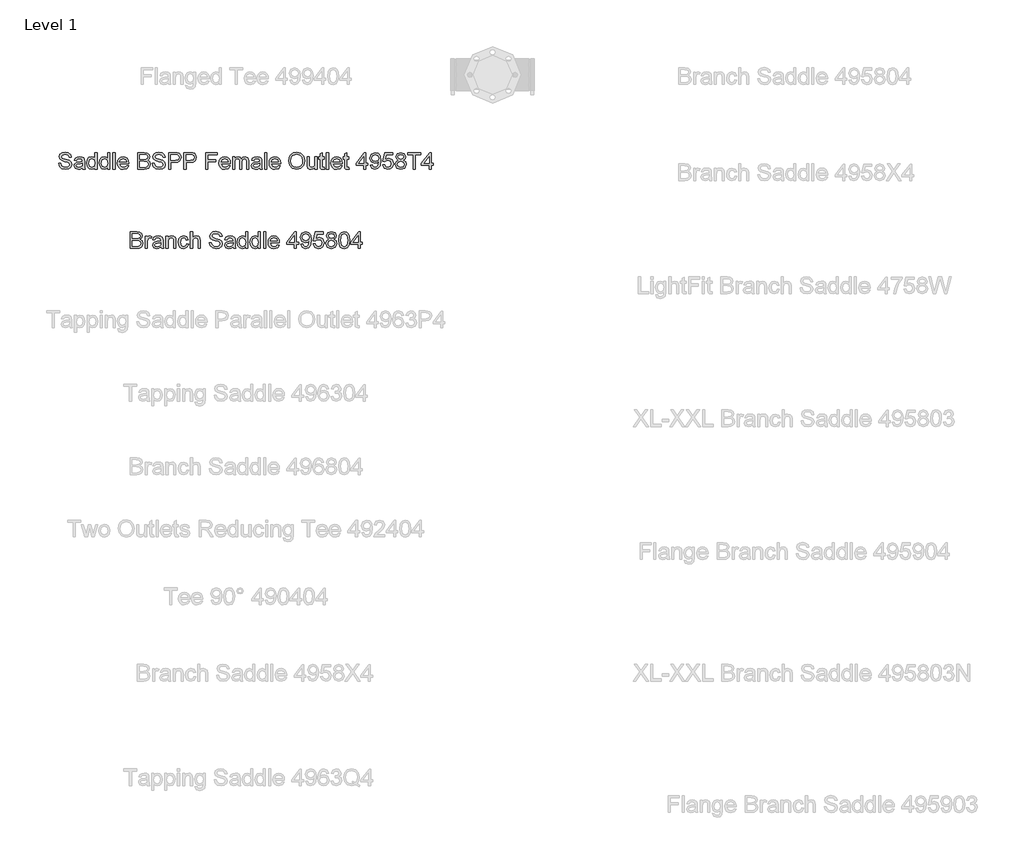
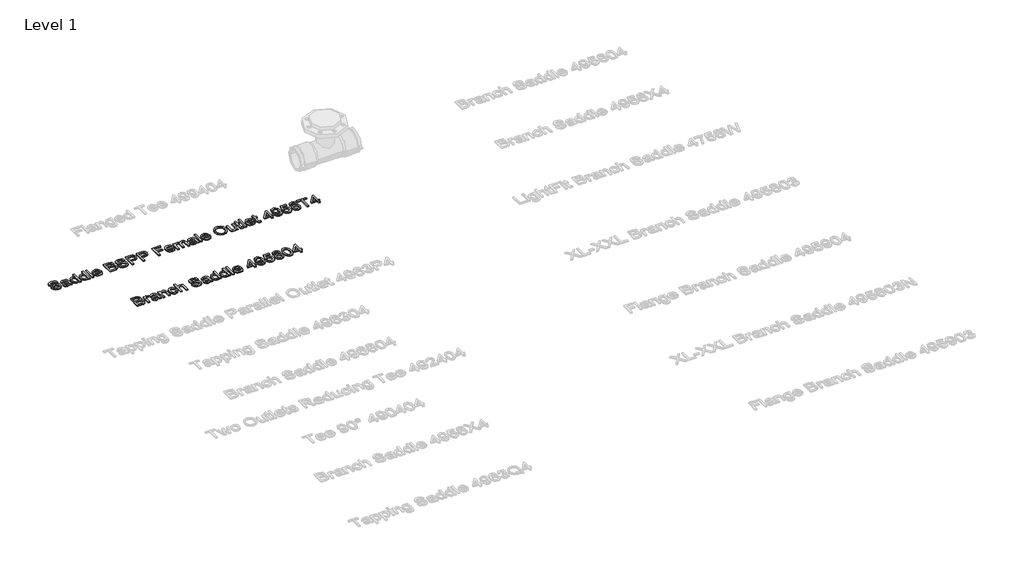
# One storey, part 8 of 38: 2 proxies.
"""IFC4 building model written with IfcOpenShell, lengths in millimetres."""

from ifc_helpers import new_model, si_unit, origin, origin_with_axes, place, context, project, spatial, polyline, outline, extrude, element, save

model = new_model("IFC4")

# Units and contexts
model_context = context("Model", 3, world=origin())
ifc_project = project(units=[si_unit("LENGTHUNIT", "METRE", prefix="MILLI")], contexts=[model_context])

# Site, building, storey
site = spatial("IfcSite", under=ifc_project)
building = spatial("IfcBuilding", under=site)
storey = spatial("IfcBuildingStorey", under=building, Name="Level 1", Elevation=0.0)

# Proxies
placement = place(None, origin())
element("IfcBuildingElementProxy", 1, Name="100 mm Arial", ObjectType="100 mm Arial", at=placement, inside=storey, context=model_context, shape_type="SweptSolid", body=[
    extrude(outline(polyline([(6397.5193072, 4657.8856658), (6404.9039226, 4657.8856658), (6407.2837303, 4650.4938389), (6413.0962303, 4645.820762), (6421.9519995, 4644.039512), (6429.6683456, 4645.3880697), (6434.6515187, 4649.0948005), (6436.288538, 4654.0491274), (6435.0625764, 4658.6573005), (6430.0433456, 4662.0106658), (6419.2909418, 4664.8303774), (6407.7164226, 4668.4722043), (6401.4351726, 4673.9673966), (6399.365461, 4681.3087428), (6401.9255572, 4689.6669158), (6409.4039226, 4695.5659543), (6420.351038, 4697.5779735), (6432.0337303, 4695.4722043), (6439.8221918, 4689.2847043), (6442.7500764, 4680.039512), (6435.365461, 4680.039512), (6431.1827687, 4687.6260505), (6420.6394995, 4690.1933582), (6410.0673841, 4687.6548966), (6406.7500764, 4681.5250889), (6409.101038, 4676.4048966), (6421.1587303, 4672.2798966), (6434.226038, 4668.5731658), (6441.3726726, 4662.5875889), (6443.6731533, 4654.2366274), (6441.0265187, 4645.4024928), (6433.4111341, 4638.9553774), (6422.240461, 4636.6548966), (6409.0505572, 4639.1356658), (6400.7068072, 4646.6068197), (6397.5193072, 4657.8856658)])), origin_with_axes(), (0.0, 0.0, 1.0), 5.0),
    extrude(outline(polyline([(6481.5193072, 4643.1164351), (6474.3582495, 4638.1116274), (6466.4471918, 4636.6548966), (6455.7236341, 4640.1597043), (6451.9808456, 4649.1164351), (6453.3943072, 4654.9577812), (6457.1082495, 4659.1981658), (6462.2789226, 4661.6212428), (6468.6683456, 4662.7318197), (6481.476038, 4665.2702812), (6481.5193072, 4666.914512), (6479.4856533, 4672.3664351), (6471.3221918, 4674.5010505), (6463.851038, 4673.0803774), (6460.288538, 4668.039512), (6452.9039226, 4668.9625889), (6456.0986341, 4676.1741274), (6462.5313264, 4680.4000889), (6472.2741149, 4681.8856658), (6481.2236341, 4680.5731658), (6486.2789226, 4677.2774928), (6488.5433456, 4672.2654735), (6488.9039226, 4665.8039351), (6488.9039226, 4656.6164351), (6489.2789226, 4643.7871082), (6490.7500764, 4637.5779735), (6483.365461, 4637.5779735), (6481.5193072, 4643.1164351)]), holes=[polyline([(6481.5193072, 4657.8856658), (6469.6058456, 4655.6212428), (6463.2524803, 4654.4241274), (6460.3750764, 4652.477012), (6459.365461, 4649.6356658), (6461.5649803, 4645.6404735), (6468.0193072, 4644.039512), (6475.490461, 4645.8063389), (6480.3077687, 4650.0827812), (6481.476038, 4655.7943197), (6481.5193072, 4657.8856658)])]), origin_with_axes(), (0.0, 0.0, 1.0), 5.0),
    extrude(outline(polyline([(6525.8269995, 4637.5779735), (6525.8269995, 4644.5443197), (6520.9411822, 4638.6272524), (6514.1875764, 4636.6548966), (6505.0433456, 4639.5106658), (6498.5818072, 4647.4794158), (6496.288538, 4659.227012), (6498.4015187, 4670.9818197), (6504.7332495, 4679.0731658), (6514.1587303, 4681.8856658), (6520.9664226, 4679.8736466), (6525.8269995, 4674.6452812), (6525.8269995, 4696.6548966), (6533.2116149, 4696.6548966), (6533.2116149, 4637.5779735), (6525.8269995, 4637.5779735)]), holes=[polyline([(6503.6731533, 4659.2558582), (6507.0048841, 4647.8255697), (6514.865461, 4644.039512), (6522.632288, 4647.6524928), (6525.8269995, 4658.6933582), (6522.5745956, 4670.6789351), (6514.5625764, 4674.5010505), (6506.788538, 4670.8303774), (6503.6731533, 4659.2558582)])]), origin_with_axes(), (0.0, 0.0, 1.0), 5.0),
    extrude(outline(polyline([(6571.0577687, 4637.5779735), (6571.0577687, 4644.5443197), (6566.1719514, 4638.6272524), (6559.4183456, 4636.6548966), (6550.2741149, 4639.5106658), (6543.8125764, 4647.4794158), (6541.5193072, 4659.227012), (6543.632288, 4670.9818197), (6549.9640187, 4679.0731658), (6559.3894995, 4681.8856658), (6566.1971918, 4679.8736466), (6571.0577687, 4674.6452812), (6571.0577687, 4696.6548966), (6578.4423841, 4696.6548966), (6578.4423841, 4637.5779735), (6571.0577687, 4637.5779735)]), holes=[polyline([(6548.9039226, 4659.2558582), (6552.2356533, 4647.8255697), (6560.0962303, 4644.039512), (6567.8630572, 4647.6524928), (6571.0577687, 4658.6933582), (6567.8053649, 4670.6789351), (6559.7933456, 4674.5010505), (6552.0193072, 4670.8303774), (6548.9039226, 4659.2558582)])]), origin_with_axes(), (0.0, 0.0, 1.0), 5.0),
    extrude(outline(polyline([(6589.5193072, 4637.5779735), (6589.5193072, 4696.6548966), (6596.9039226, 4696.6548966), (6596.9039226, 4637.5779735), (6589.5193072, 4637.5779735)])), origin_with_axes(), (0.0, 0.0, 1.0), 5.0),
    extrude(outline(polyline([(6638.3558456, 4650.5010505), (6645.5962303, 4649.5779735), (6638.8245956, 4640.0443197), (6626.2116149, 4636.6548966), (6617.5469514, 4638.117036), (6610.8798841, 4642.5034543), (6606.6286822, 4649.5292957), (6605.2116149, 4658.9097043), (6606.6431053, 4668.6056178), (6610.9375764, 4675.8568197), (6617.5144995, 4680.3784543), (6625.7933456, 4681.8856658), (6633.8143793, 4680.3820601), (6640.2236341, 4675.8712428), (6644.4261581, 4668.6344639), (6645.8269995, 4658.9529735), (6645.7837303, 4656.9625889), (6612.5962303, 4656.9625889), (6616.8438264, 4647.3712428), (6626.3558456, 4644.039512), (6633.5962303, 4645.5827812), (6638.3558456, 4650.5010505)]), holes=[polyline([(6612.5962303, 4664.3472043), (6638.4423841, 4664.3472043), (6635.4856533, 4671.039512), (6625.7644995, 4674.5010505), (6616.6707495, 4671.7390312), (6612.5962303, 4664.3472043)])]), origin_with_axes(), (0.0, 0.0, 1.0), 5.0),
    extrude(outline(polyline([(6677.2116149, 4637.5779735), (6677.2116149, 4696.6548966), (6699.7548841, 4696.6548966), (6710.7957495, 4694.9169158), (6717.3149803, 4689.5731658), (6719.6731533, 4682.0154735), (6717.6899803, 4675.1140312), (6711.6971918, 4669.8856658), (6718.9736341, 4664.3760505), (6721.5193072, 4655.1885505), (6719.7813264, 4647.2486466), (6715.476038, 4641.5948005), (6709.0505572, 4638.5948005), (6699.5818072, 4637.5779735), (6677.2116149, 4637.5779735)]), holes=[polyline([(6684.5962303, 4672.6548966), (6698.0818072, 4672.6548966), (6705.9568072, 4673.289512), (6710.694788, 4676.0226851), (6712.288538, 4680.8327812), (6710.802961, 4685.6500889), (6706.5481533, 4688.4986466), (6697.0577687, 4689.2702812), (6684.5962303, 4689.2702812), (6684.5962303, 4672.6548966)]), polyline([(6684.5962303, 4644.9625889), (6699.740461, 4644.9625889), (6705.2212303, 4645.2510505), (6709.8582495, 4646.8592235), (6712.9303649, 4650.1404735), (6714.1346918, 4655.1164351), (6712.7212303, 4660.8568197), (6708.1419033, 4664.2823005), (6699.0193072, 4665.2702812), (6684.5962303, 4665.2702812), (6684.5962303, 4644.9625889)])]), origin_with_axes(), (0.0, 0.0, 1.0), 5.0),
    extrude(outline(polyline([(6728.9039226, 4657.8856658), (6736.288538, 4657.8856658), (6738.6683456, 4650.4938389), (6744.4808456, 4645.820762), (6753.3366149, 4644.039512), (6761.052961, 4645.3880697), (6766.0361341, 4649.0948005), (6767.6731533, 4654.0491274), (6766.4471918, 4658.6573005), (6761.427961, 4662.0106658), (6750.6755572, 4664.8303774), (6739.101038, 4668.4722043), (6732.819788, 4673.9673966), (6730.7500764, 4681.3087428), (6733.3101726, 4689.6669158), (6740.788538, 4695.5659543), (6751.7356533, 4697.5779735), (6763.4183456, 4695.4722043), (6771.2068072, 4689.2847043), (6774.1346918, 4680.039512), (6766.7500764, 4680.039512), (6762.5673841, 4687.6260505), (6752.0241149, 4690.1933582), (6741.4519995, 4687.6548966), (6738.1346918, 4681.5250889), (6740.4856533, 4676.4048966), (6752.5433456, 4672.2798966), (6765.6106533, 4668.5731658), (6772.757288, 4662.5875889), (6775.0577687, 4654.2366274), (6772.4111341, 4645.4024928), (6764.7957495, 4638.9553774), (6753.6250764, 4636.6548966), (6740.4351726, 4639.1356658), (6732.0914226, 4646.6068197), (6728.9039226, 4657.8856658)])), origin_with_axes(), (0.0, 0.0, 1.0), 5.0),
    extrude(outline(polyline([(6786.1346918, 4637.5779735), (6786.1346918, 4696.6548966), (6808.0289226, 4696.6548966), (6816.8558456, 4696.0923966), (6824.0313264, 4693.3303774), (6828.6827687, 4687.6188389), (6830.4423841, 4679.5635505), (6825.6899803, 4666.7991274), (6819.0247158, 4662.883262), (6808.5337303, 4661.5779735), (6793.5193072, 4661.5779735), (6793.5193072, 4637.5779735), (6786.1346918, 4637.5779735)]), holes=[polyline([(6793.5193072, 4668.9625889), (6808.9664226, 4668.9625889), (6819.8414226, 4671.6741274), (6823.0577687, 4679.3039351), (6821.1611341, 4685.4193197), (6816.177961, 4688.7654735), (6808.7933456, 4689.2702812), (6793.5193072, 4689.2702812), (6793.5193072, 4668.9625889)])]), origin_with_axes(), (0.0, 0.0, 1.0), 5.0),
    extrude(outline(polyline([(6840.5962303, 4637.5779735), (6840.5962303, 4696.6548966), (6862.490461, 4696.6548966), (6871.3173841, 4696.0923966), (6878.4928649, 4693.3303774), (6883.1443072, 4687.6188389), (6884.9039226, 4679.5635505), (6880.1515187, 4666.7991274), (6873.4862543, 4662.883262), (6862.9952687, 4661.5779735), (6847.9808456, 4661.5779735), (6847.9808456, 4637.5779735), (6840.5962303, 4637.5779735)]), holes=[polyline([(6847.9808456, 4668.9625889), (6863.427961, 4668.9625889), (6874.302961, 4671.6741274), (6877.5193072, 4679.3039351), (6875.6226726, 4685.4193197), (6870.6394995, 4688.7654735), (6863.2548841, 4689.2702812), (6847.9808456, 4689.2702812), (6847.9808456, 4668.9625889)])]), origin_with_axes(), (0.0, 0.0, 1.0), 5.0),
    extrude(outline(polyline([(6918.1346918, 4637.5779735), (6918.1346918, 4696.6548966), (6957.8269995, 4696.6548966), (6957.8269995, 4689.2702812), (6925.5193072, 4689.2702812), (6925.5193072, 4671.7318197), (6953.2116149, 4671.7318197), (6953.2116149, 4664.3472043), (6925.5193072, 4664.3472043), (6925.5193072, 4637.5779735), (6918.1346918, 4637.5779735)])), origin_with_axes(), (0.0, 0.0, 1.0), 5.0),
    extrude(outline(polyline([(6997.4327687, 4650.5010505), (7004.6731533, 4649.5779735), (6997.9015187, 4640.0443197), (6985.288538, 4636.6548966), (6976.6238745, 4638.117036), (6969.9568072, 4642.5034543), (6965.7056053, 4649.5292957), (6964.288538, 4658.9097043), (6965.7200283, 4668.6056178), (6970.0144995, 4675.8568197), (6976.5914226, 4680.3784543), (6984.8702687, 4681.8856658), (6992.8913024, 4680.3820601), (6999.3005572, 4675.8712428), (7003.5030812, 4668.6344639), (7004.9039226, 4658.9529735), (7004.8606533, 4656.9625889), (6971.6731533, 4656.9625889), (6975.9207495, 4647.3712428), (6985.4327687, 4644.039512), (6992.6731533, 4645.5827812), (6997.4327687, 4650.5010505)]), holes=[polyline([(6971.6731533, 4664.3472043), (6997.5193072, 4664.3472043), (6994.5625764, 4671.039512), (6984.8414226, 4674.5010505), (6975.7476726, 4671.7390312), (6971.6731533, 4664.3472043)])]), origin_with_axes(), (0.0, 0.0, 1.0), 5.0),
    extrude(outline(polyline([(7012.288538, 4637.5779735), (7012.288538, 4680.9625889), (7019.6731533, 4680.9625889), (7019.6731533, 4673.8231658), (7024.7500764, 4679.6717235), (7031.976038, 4681.8856658), (7039.3750764, 4679.6284543), (7043.4423841, 4673.3039351), (7049.2044033, 4679.7402332), (7056.4808456, 4681.8856658), (7066.1370956, 4678.3159543), (7069.5193072, 4667.3183582), (7069.5193072, 4637.5779735), (7062.1346918, 4637.5779735), (7062.1346918, 4664.1452812), (7061.4495956, 4670.3111466), (7058.9688264, 4673.3472043), (7054.7500764, 4674.5010505), (7047.4880572, 4671.5443197), (7044.5962303, 4662.0683582), (7044.5962303, 4637.5779735), (7037.2116149, 4637.5779735), (7037.2116149, 4664.9673966), (7035.5024803, 4672.1212428), (7029.8991149, 4674.5010505), (7024.4327687, 4672.914512), (7020.7981533, 4668.2702812), (7019.6731533, 4659.4577812), (7019.6731533, 4637.5779735), (7012.288538, 4637.5779735)])), origin_with_axes(), (0.0, 0.0, 1.0), 5.0),
    extrude(outline(polyline([(7108.288538, 4643.1164351), (7101.1274803, 4638.1116274), (7093.2164226, 4636.6548966), (7082.4928649, 4640.1597043), (7078.7500764, 4649.1164351), (7080.163538, 4654.9577812), (7083.8774803, 4659.1981658), (7089.0481533, 4661.6212428), (7095.4375764, 4662.7318197), (7108.2452687, 4665.2702812), (7108.288538, 4666.914512), (7106.2548841, 4672.3664351), (7098.0914226, 4674.5010505), (7090.6202687, 4673.0803774), (7087.0577687, 4668.039512), (7079.6731533, 4668.9625889), (7082.8678649, 4676.1741274), (7089.3005572, 4680.4000889), (7099.0433456, 4681.8856658), (7107.9928649, 4680.5731658), (7113.0481533, 4677.2774928), (7115.3125764, 4672.2654735), (7115.6731533, 4665.8039351), (7115.6731533, 4656.6164351), (7116.0481533, 4643.7871082), (7117.5193072, 4637.5779735), (7110.1346918, 4637.5779735), (7108.288538, 4643.1164351)]), holes=[polyline([(7108.288538, 4657.8856658), (7096.3750764, 4655.6212428), (7090.021711, 4654.4241274), (7087.1443072, 4652.477012), (7086.1346918, 4649.6356658), (7088.334211, 4645.6404735), (7094.788538, 4644.039512), (7102.2596918, 4645.8063389), (7107.0769995, 4650.0827812), (7108.2452687, 4655.7943197), (7108.288538, 4657.8856658)])]), origin_with_axes(), (0.0, 0.0, 1.0), 5.0),
    extrude(outline(polyline([(7125.8269995, 4637.5779735), (7125.8269995, 4696.6548966), (7133.2116149, 4696.6548966), (7133.2116149, 4637.5779735), (7125.8269995, 4637.5779735)])), origin_with_axes(), (0.0, 0.0, 1.0), 5.0),
    extrude(outline(polyline([(7174.663538, 4650.5010505), (7181.9039226, 4649.5779735), (7175.132288, 4640.0443197), (7162.5193072, 4636.6548966), (7153.8546437, 4638.117036), (7147.1875764, 4642.5034543), (7142.9363745, 4649.5292957), (7141.5193072, 4658.9097043), (7142.9507976, 4668.6056178), (7147.2452687, 4675.8568197), (7153.8221918, 4680.3784543), (7162.101038, 4681.8856658), (7170.1220716, 4680.3820601), (7176.5313264, 4675.8712428), (7180.7338505, 4668.6344639), (7182.1346918, 4658.9529735), (7182.0914226, 4656.9625889), (7148.9039226, 4656.9625889), (7153.1515187, 4647.3712428), (7162.663538, 4644.039512), (7169.9039226, 4645.5827812), (7174.663538, 4650.5010505)]), holes=[polyline([(7148.9039226, 4664.3472043), (7174.7500764, 4664.3472043), (7171.7933456, 4671.039512), (7162.0721918, 4674.5010505), (7152.9784418, 4671.7390312), (7148.9039226, 4664.3472043)])]), origin_with_axes(), (0.0, 0.0, 1.0), 5.0),
    extrude(outline(polyline([(7210.7500764, 4666.3375889), (7212.7188264, 4679.4012908), (7218.6250764, 4689.2847043), (7227.6431053, 4695.5046562), (7238.9471918, 4697.5779735), (7253.6443072, 4693.6837428), (7263.6250764, 4682.8231658), (7267.0577687, 4667.0154735), (7263.444788, 4650.9914351), (7253.2044033, 4640.289512), (7238.9039226, 4636.6548966), (7224.0481533, 4640.6717235), (7214.1250764, 4651.633262), (7210.7500764, 4666.3375889)]), holes=[polyline([(7218.1346918, 4666.2654735), (7219.6112543, 4657.023887), (7224.0409418, 4649.9818197), (7230.6989947, 4645.5250889), (7238.8606533, 4644.039512), (7247.1413024, 4645.539512), (7253.8101726, 4650.039512), (7258.2074081, 4657.2979255), (7259.6731533, 4667.0731658), (7257.163538, 4679.2606658), (7249.8294033, 4687.3303774), (7238.990461, 4690.1933582), (7224.2933456, 4684.6765312), (7219.6743553, 4677.3153533), (7218.1346918, 4666.2654735)])]), origin_with_axes(), (0.0, 0.0, 1.0), 5.0),
    extrude(outline(polyline([(7303.9808456, 4637.5779735), (7303.9808456, 4645.0347043), (7298.1971918, 4638.7498485), (7290.6539226, 4636.6548966), (7283.709211, 4638.1260505), (7278.9207495, 4641.8183582), (7276.7212303, 4647.2558582), (7276.288538, 4654.1212428), (7276.288538, 4680.9625889), (7283.6731533, 4680.9625889), (7283.6731533, 4657.5972043), (7284.1202687, 4650.0683582), (7287.0409418, 4645.6476851), (7292.5433456, 4644.039512), (7298.709211, 4645.6837428), (7302.7837303, 4650.1621082), (7303.9808456, 4658.3904735), (7303.9808456, 4680.9625889), (7311.365461, 4680.9625889), (7311.365461, 4637.5779735), (7303.9808456, 4637.5779735)])), origin_with_axes(), (0.0, 0.0, 1.0), 5.0),
    extrude(outline(polyline([(7337.2116149, 4643.7366274), (7338.1346918, 4637.3616274), (7332.6106533, 4636.6548966), (7326.4231533, 4637.8808582), (7323.3366149, 4641.0972043), (7322.4423841, 4649.477012), (7322.4423841, 4673.5779735), (7316.9039226, 4673.5779735), (7316.9039226, 4680.9625889), (7322.4423841, 4680.9625889), (7322.4423841, 4691.5058582), (7329.8269995, 4695.8472043), (7329.8269995, 4680.9625889), (7337.2116149, 4680.9625889), (7337.2116149, 4673.5779735), (7329.8269995, 4673.5779735), (7329.8269995, 4649.6933582), (7330.2164226, 4645.8856658), (7331.4784418, 4644.5371082), (7333.9952687, 4644.039512), (7337.2116149, 4643.7366274)])), origin_with_axes(), (0.0, 0.0, 1.0), 5.0),
    extrude(outline(polyline([(7344.5962303, 4637.5779735), (7344.5962303, 4696.6548966), (7351.9808456, 4696.6548966), (7351.9808456, 4637.5779735), (7344.5962303, 4637.5779735)])), origin_with_axes(), (0.0, 0.0, 1.0), 5.0),
    extrude(outline(polyline([(7393.4327687, 4650.5010505), (7400.6731533, 4649.5779735), (7393.9015187, 4640.0443197), (7381.288538, 4636.6548966), (7372.6238745, 4638.117036), (7365.9568072, 4642.5034543), (7361.7056053, 4649.5292957), (7360.288538, 4658.9097043), (7361.7200283, 4668.6056178), (7366.0144995, 4675.8568197), (7372.5914226, 4680.3784543), (7380.8702687, 4681.8856658), (7388.8913024, 4680.3820601), (7395.3005572, 4675.8712428), (7399.5030812, 4668.6344639), (7400.9039226, 4658.9529735), (7400.8606533, 4656.9625889), (7367.6731533, 4656.9625889), (7371.9207495, 4647.3712428), (7381.4327687, 4644.039512), (7388.6731533, 4645.5827812), (7393.4327687, 4650.5010505)]), holes=[polyline([(7367.6731533, 4664.3472043), (7393.5193072, 4664.3472043), (7390.5625764, 4671.039512), (7380.8414226, 4674.5010505), (7371.7476726, 4671.7390312), (7367.6731533, 4664.3472043)])]), origin_with_axes(), (0.0, 0.0, 1.0), 5.0),
    extrude(outline(polyline([(7423.9808456, 4643.7366274), (7424.9039226, 4637.3616274), (7419.3798841, 4636.6548966), (7413.1923841, 4637.8808582), (7410.1058456, 4641.0972043), (7409.2116149, 4649.477012), (7409.2116149, 4673.5779735), (7403.6731533, 4673.5779735), (7403.6731533, 4680.9625889), (7409.2116149, 4680.9625889), (7409.2116149, 4691.5058582), (7416.5962303, 4695.8472043), (7416.5962303, 4680.9625889), (7423.9808456, 4680.9625889), (7423.9808456, 4673.5779735), (7416.5962303, 4673.5779735), (7416.5962303, 4649.6933582), (7416.9856533, 4645.8856658), (7418.2476726, 4644.5371082), (7420.7644995, 4644.039512), (7423.9808456, 4643.7366274)])), origin_with_axes(), (0.0, 0.0, 1.0), 5.0),
    extrude(outline(polyline([(7476.5962303, 4637.5779735), (7476.5962303, 4651.4241274), (7449.8269995, 4651.4241274), (7449.8269995, 4658.8087428), (7478.4423841, 4695.7318197), (7483.9808456, 4695.7318197), (7483.9808456, 4658.8087428), (7491.365461, 4658.8087428), (7491.365461, 4651.4241274), (7483.9808456, 4651.4241274), (7483.9808456, 4637.5779735), (7476.5962303, 4637.5779735)]), holes=[polyline([(7476.5962303, 4658.8087428), (7476.5962303, 4681.6260505), (7458.913538, 4658.8087428), (7476.5962303, 4658.8087428)])]), origin_with_axes(), (0.0, 0.0, 1.0), 5.0),
    extrude(outline(polyline([(7498.7500764, 4652.3472043), (7506.1346918, 4653.2702812), (7509.4519995, 4646.2246082), (7515.740461, 4644.039512), (7521.7188264, 4645.445762), (7525.771711, 4649.2029735), (7528.1875764, 4655.6212428), (7529.2548841, 4664.1885505), (7523.3053649, 4660.0347043), (7515.2068072, 4657.8856658), (7502.8678649, 4663.1356658), (7497.8269995, 4676.9673966), (7503.1130572, 4691.2462428), (7516.3606533, 4696.6548966), (7526.882288, 4693.5683582), (7534.1226726, 4684.7702812), (7536.5962303, 4668.2414351), (7534.1298841, 4650.3063389), (7526.7957495, 4640.1452812), (7515.3943072, 4636.6548966), (7504.0433456, 4640.7726851), (7498.7500764, 4652.3472043)]), holes=[polyline([(7529.2116149, 4677.1404735), (7526.0241149, 4685.9962428), (7517.5577687, 4689.2702812), (7508.6731533, 4685.7438389), (7505.2116149, 4676.6068197), (7508.4856533, 4668.4217235), (7517.3558456, 4665.2702812), (7525.8726726, 4668.4217235), (7529.2116149, 4677.1404735)])]), origin_with_axes(), (0.0, 0.0, 1.0), 5.0),
    extrude(outline(polyline([(7543.0577687, 4653.2702812), (7550.4423841, 4654.1933582), (7554.163538, 4646.5851851), (7561.8798841, 4644.039512), (7571.1394995, 4647.5803774), (7574.4423841, 4656.977012), (7571.3486341, 4665.7462428), (7561.9952687, 4668.9625889), (7555.5120956, 4667.6789351), (7551.365461, 4664.3472043), (7543.9808456, 4665.2702812), (7550.4423841, 4695.7318197), (7579.0577687, 4695.7318197), (7579.0577687, 4688.3472043), (7556.413538, 4688.3472043), (7553.2548841, 4672.0779735), (7564.0577687, 4676.3472043), (7576.6851726, 4671.0539351), (7581.8269995, 4657.4385505), (7577.1971918, 4643.7366274), (7570.5481533, 4638.4253293), (7561.851038, 4636.6548966), (7548.819788, 4641.2053774), (7543.0577687, 4653.2702812)])), origin_with_axes(), (0.0, 0.0, 1.0), 5.0),
    extrude(outline(polyline([(7599.0481533, 4670.1164351), (7592.319788, 4674.7029735), (7590.1346918, 4681.8423966), (7594.8943072, 4692.3856658), (7607.5721918, 4696.6548966), (7620.365461, 4692.2847043), (7625.2116149, 4681.6404735), (7623.0553649, 4674.6813389), (7616.5144995, 4670.1164351), (7624.3678649, 4664.3255697), (7627.0577687, 4654.7702812), (7621.7212303, 4641.8760505), (7607.6731533, 4636.6548966), (7593.6250764, 4641.8976851), (7588.288538, 4654.9722043), (7591.0866149, 4664.7510505), (7599.0481533, 4670.1164351)]), holes=[polyline([(7597.5193072, 4681.6260505), (7600.1370956, 4675.8279735), (7607.7596918, 4673.5779735), (7615.2308456, 4675.8135505), (7617.8269995, 4681.2943197), (7615.1443072, 4686.9698005), (7607.6731533, 4689.2702812), (7600.1803649, 4687.0202812), (7597.5193072, 4681.6260505)]), polyline([(7595.6731533, 4655.2318197), (7596.9063264, 4649.6717235), (7601.2693072, 4645.5106658), (7607.7308456, 4644.039512), (7616.5289226, 4647.133262), (7619.6731533, 4655.0010505), (7616.427961, 4663.0202812), (7607.4856533, 4666.1933582), (7598.7957495, 4663.0635505), (7595.6731533, 4655.2318197)])]), origin_with_axes(), (0.0, 0.0, 1.0), 5.0),
    extrude(outline(polyline([(7651.0577687, 4637.5779735), (7651.0577687, 4689.2702812), (7631.6731533, 4689.2702812), (7631.6731533, 4696.6548966), (7677.8269995, 4696.6548966), (7677.8269995, 4689.2702812), (7658.4423841, 4689.2702812), (7658.4423841, 4637.5779735), (7651.0577687, 4637.5779735)])), origin_with_axes(), (0.0, 0.0, 1.0), 5.0),
    extrude(outline(polyline([(7707.365461, 4637.5779735), (7707.365461, 4651.4241274), (7680.5962303, 4651.4241274), (7680.5962303, 4658.8087428), (7709.2116149, 4695.7318197), (7714.7500764, 4695.7318197), (7714.7500764, 4658.8087428), (7722.1346918, 4658.8087428), (7722.1346918, 4651.4241274), (7714.7500764, 4651.4241274), (7714.7500764, 4637.5779735), (7707.365461, 4637.5779735)]), holes=[polyline([(7707.365461, 4658.8087428), (7707.365461, 4681.6260505), (7689.6827687, 4658.8087428), (7707.365461, 4658.8087428)])]), origin_with_axes(), (0.0, 0.0, 1.0), 5.0),
])
element("IfcBuildingElementProxy", 2, Name="100 mm Arial", ObjectType="100 mm Arial", at=placement, inside=storey, context=model_context, shape_type="SweptSolid", body=[
    extrude(outline(polyline([(6650.4423841, 4357.5779735), (6650.4423841, 4416.6548966), (6672.9856533, 4416.6548966), (6684.0265187, 4414.9169158), (6690.5457495, 4409.5731658), (6692.9039226, 4402.0154735), (6690.9207495, 4395.1140312), (6684.927961, 4389.8856658), (6692.2044033, 4384.3760505), (6694.7500764, 4375.1885505), (6693.0120956, 4367.2486466), (6688.7068072, 4361.5948005), (6682.2813264, 4358.5948005), (6672.8125764, 4357.5779735), (6650.4423841, 4357.5779735)]), holes=[polyline([(6657.8269995, 4364.9625889), (6672.9712303, 4364.9625889), (6678.4519995, 4365.2510505), (6683.0890187, 4366.8592235), (6686.1611341, 4370.1404735), (6687.365461, 4375.1164351), (6685.9519995, 4380.8568197), (6681.3726726, 4384.2823005), (6672.2500764, 4385.2702812), (6657.8269995, 4385.2702812), (6657.8269995, 4364.9625889)]), polyline([(6657.8269995, 4392.6548966), (6671.3125764, 4392.6548966), (6679.1875764, 4393.289512), (6683.9255572, 4396.0226851), (6685.5193072, 4400.8327812), (6684.0337303, 4405.6500889), (6679.7789226, 4408.4986466), (6670.288538, 4409.2702812), (6657.8269995, 4409.2702812), (6657.8269995, 4392.6548966)])]), origin_with_axes(), (0.0, 0.0, 1.0), 5.0),
    extrude(outline(polyline([(6703.9808456, 4357.5779735), (6703.9808456, 4400.9625889), (6710.4423841, 4400.9625889), (6710.4423841, 4394.5443197), (6715.0289226, 4400.4577812), (6719.6443072, 4401.8856658), (6727.0577687, 4399.6068197), (6724.5914226, 4392.9866274), (6719.3991149, 4394.5010505), (6715.2236341, 4393.0443197), (6712.5625764, 4389.0058582), (6711.365461, 4380.3808582), (6711.365461, 4357.5779735), (6703.9808456, 4357.5779735)])), origin_with_axes(), (0.0, 0.0, 1.0), 5.0),
    extrude(outline(polyline([(6759.365461, 4363.1164351), (6752.2044033, 4358.1116274), (6744.2933456, 4356.6548966), (6733.569788, 4360.1597043), (6729.8269995, 4369.1164351), (6731.240461, 4374.9577812), (6734.9544033, 4379.1981658), (6740.1250764, 4381.6212428), (6746.5144995, 4382.7318197), (6759.3221918, 4385.2702812), (6759.365461, 4386.914512), (6757.3318072, 4392.3664351), (6749.1683456, 4394.5010505), (6741.6971918, 4393.0803774), (6738.1346918, 4388.039512), (6730.7500764, 4388.9625889), (6733.944788, 4396.1741274), (6740.3774803, 4400.4000889), (6750.1202687, 4401.8856658), (6759.069788, 4400.5731658), (6764.1250764, 4397.2774928), (6766.3894995, 4392.2654735), (6766.7500764, 4385.8039351), (6766.7500764, 4376.6164351), (6767.1250764, 4363.7871082), (6768.5962303, 4357.5779735), (6761.2116149, 4357.5779735), (6759.365461, 4363.1164351)]), holes=[polyline([(6759.365461, 4377.8856658), (6747.4519995, 4375.6212428), (6741.0986341, 4374.4241274), (6738.2212303, 4372.477012), (6737.2116149, 4369.6356658), (6739.4111341, 4365.6404735), (6745.865461, 4364.039512), (6753.3366149, 4365.8063389), (6758.1539226, 4370.0827812), (6759.3221918, 4375.7943197), (6759.365461, 4377.8856658)])]), origin_with_axes(), (0.0, 0.0, 1.0), 5.0),
    extrude(outline(polyline([(6776.9039226, 4357.5779735), (6776.9039226, 4400.9625889), (6784.288538, 4400.9625889), (6784.288538, 4394.9048966), (6789.9351726, 4400.1404735), (6797.6443072, 4401.8856658), (6804.6178649, 4400.4794158), (6809.3774803, 4396.7871082), (6811.5914226, 4391.3568197), (6811.9808456, 4384.2173966), (6811.9808456, 4357.5779735), (6804.5962303, 4357.5779735), (6804.5962303, 4383.2222043), (6803.7452687, 4389.7558582), (6800.7380572, 4393.2101851), (6795.6683456, 4394.5010505), (6787.6563264, 4391.602012), (6784.288538, 4380.5972043), (6784.288538, 4357.5779735), (6776.9039226, 4357.5779735)])), origin_with_axes(), (0.0, 0.0, 1.0), 5.0),
    extrude(outline(polyline([(6849.8269995, 4373.2702812), (6857.2116149, 4372.3472043), (6851.2837303, 4360.8159543), (6839.5721918, 4356.6548966), (6831.7170235, 4358.1062187), (6825.5745956, 4362.4601851), (6821.6100524, 4369.5256899), (6820.288538, 4379.1116274), (6822.5457495, 4391.3784543), (6829.4255572, 4399.2606658), (6839.4712303, 4401.8856658), (6850.6995956, 4398.2798966), (6856.288538, 4388.039512), (6848.9039226, 4387.1164351), (6845.4784418, 4392.6476851), (6839.5289226, 4394.5010505), (6830.9688264, 4390.852012), (6827.6731533, 4379.3135505), (6830.896711, 4367.6669158), (6839.3269995, 4364.039512), (6846.2861341, 4366.3039351), (6849.8269995, 4373.2702812)])), origin_with_axes(), (0.0, 0.0, 1.0), 5.0),
    extrude(outline(polyline([(6863.6731533, 4357.5779735), (6863.6731533, 4416.6548966), (6871.0577687, 4416.6548966), (6871.0577687, 4394.9337428), (6876.8161822, 4400.1476851), (6883.9087303, 4401.8856658), (6892.2019995, 4399.9890312), (6897.2356533, 4394.7462428), (6898.7500764, 4385.039512), (6898.7500764, 4357.5779735), (6891.365461, 4357.5779735), (6891.365461, 4384.2750889), (6889.0144995, 4392.0635505), (6882.351038, 4394.5010505), (6876.3005572, 4392.8568197), (6872.2620956, 4388.4000889), (6871.0577687, 4380.6260505), (6871.0577687, 4357.5779735), (6863.6731533, 4357.5779735)])), origin_with_axes(), (0.0, 0.0, 1.0), 5.0),
    extrude(outline(polyline([(6930.1346918, 4377.8856658), (6937.5193072, 4377.8856658), (6939.8991149, 4370.4938389), (6945.7116149, 4365.820762), (6954.5673841, 4364.039512), (6962.2837303, 4365.3880697), (6967.2669033, 4369.0948005), (6968.9039226, 4374.0491274), (6967.677961, 4378.6573005), (6962.6587303, 4382.0106658), (6951.9063264, 4384.8303774), (6940.3318072, 4388.4722043), (6934.0505572, 4393.9673966), (6931.9808456, 4401.3087428), (6934.5409418, 4409.6669158), (6942.0193072, 4415.5659543), (6952.9664226, 4417.5779735), (6964.6491149, 4415.4722043), (6972.4375764, 4409.2847043), (6975.365461, 4400.039512), (6967.9808456, 4400.039512), (6963.7981533, 4407.6260505), (6953.2548841, 4410.1933582), (6942.6827687, 4407.6548966), (6939.365461, 4401.5250889), (6941.7164226, 4396.4048966), (6953.7741149, 4392.2798966), (6966.8414226, 4388.5731658), (6973.9880572, 4382.5875889), (6976.288538, 4374.2366274), (6973.6419033, 4365.4024928), (6966.0265187, 4358.9553774), (6954.8558456, 4356.6548966), (6941.6659418, 4359.1356658), (6933.3221918, 4366.6068197), (6930.1346918, 4377.8856658)])), origin_with_axes(), (0.0, 0.0, 1.0), 5.0),
    extrude(outline(polyline([(7014.1346918, 4363.1164351), (7006.9736341, 4358.1116274), (6999.0625764, 4356.6548966), (6988.3390187, 4360.1597043), (6984.5962303, 4369.1164351), (6986.0096918, 4374.9577812), (6989.7236341, 4379.1981658), (6994.8943072, 4381.6212428), (7001.2837303, 4382.7318197), (7014.0914226, 4385.2702812), (7014.1346918, 4386.914512), (7012.101038, 4392.3664351), (7003.9375764, 4394.5010505), (6996.4664226, 4393.0803774), (6992.9039226, 4388.039512), (6985.5193072, 4388.9625889), (6988.7140187, 4396.1741274), (6995.146711, 4400.4000889), (7004.8894995, 4401.8856658), (7013.8390187, 4400.5731658), (7018.8943072, 4397.2774928), (7021.1587303, 4392.2654735), (7021.5193072, 4385.8039351), (7021.5193072, 4376.6164351), (7021.8943072, 4363.7871082), (7023.365461, 4357.5779735), (7015.9808456, 4357.5779735), (7014.1346918, 4363.1164351)]), holes=[polyline([(7014.1346918, 4377.8856658), (7002.2212303, 4375.6212428), (6995.8678649, 4374.4241274), (6992.990461, 4372.477012), (6991.9808456, 4369.6356658), (6994.1803649, 4365.6404735), (7000.6346918, 4364.039512), (7008.1058456, 4365.8063389), (7012.9231533, 4370.0827812), (7014.0914226, 4375.7943197), (7014.1346918, 4377.8856658)])]), origin_with_axes(), (0.0, 0.0, 1.0), 5.0),
    extrude(outline(polyline([(7058.4423841, 4357.5779735), (7058.4423841, 4364.5443197), (7053.5565668, 4358.6272524), (7046.802961, 4356.6548966), (7037.6587303, 4359.5106658), (7031.1971918, 4367.4794158), (7028.9039226, 4379.227012), (7031.0169033, 4390.9818197), (7037.3486341, 4399.0731658), (7046.7741149, 4401.8856658), (7053.5818072, 4399.8736466), (7058.4423841, 4394.6452812), (7058.4423841, 4416.6548966), (7065.8269995, 4416.6548966), (7065.8269995, 4357.5779735), (7058.4423841, 4357.5779735)]), holes=[polyline([(7036.288538, 4379.2558582), (7039.6202687, 4367.8255697), (7047.4808456, 4364.039512), (7055.2476726, 4367.6524928), (7058.4423841, 4378.6933582), (7055.1899803, 4390.6789351), (7047.177961, 4394.5010505), (7039.4039226, 4390.8303774), (7036.288538, 4379.2558582)])]), origin_with_axes(), (0.0, 0.0, 1.0), 5.0),
    extrude(outline(polyline([(7103.6731533, 4357.5779735), (7103.6731533, 4364.5443197), (7098.787336, 4358.6272524), (7092.0337303, 4356.6548966), (7082.8894995, 4359.5106658), (7076.427961, 4367.4794158), (7074.1346918, 4379.227012), (7076.2476726, 4390.9818197), (7082.5794033, 4399.0731658), (7092.0048841, 4401.8856658), (7098.8125764, 4399.8736466), (7103.6731533, 4394.6452812), (7103.6731533, 4416.6548966), (7111.0577687, 4416.6548966), (7111.0577687, 4357.5779735), (7103.6731533, 4357.5779735)]), holes=[polyline([(7081.5193072, 4379.2558582), (7084.851038, 4367.8255697), (7092.7116149, 4364.039512), (7100.4784418, 4367.6524928), (7103.6731533, 4378.6933582), (7100.4207495, 4390.6789351), (7092.4087303, 4394.5010505), (7084.6346918, 4390.8303774), (7081.5193072, 4379.2558582)])]), origin_with_axes(), (0.0, 0.0, 1.0), 5.0),
    extrude(outline(polyline([(7122.1346918, 4357.5779735), (7122.1346918, 4416.6548966), (7129.5193072, 4416.6548966), (7129.5193072, 4357.5779735), (7122.1346918, 4357.5779735)])), origin_with_axes(), (0.0, 0.0, 1.0), 5.0),
    extrude(outline(polyline([(7170.9712303, 4370.5010505), (7178.2116149, 4369.5779735), (7171.4399803, 4360.0443197), (7158.8269995, 4356.6548966), (7150.162336, 4358.117036), (7143.4952687, 4362.5034543), (7139.2440668, 4369.5292957), (7137.8269995, 4378.9097043), (7139.2584899, 4388.6056178), (7143.552961, 4395.8568197), (7150.1298841, 4400.3784543), (7158.4087303, 4401.8856658), (7166.4297639, 4400.3820601), (7172.8390187, 4395.8712428), (7177.0415428, 4388.6344639), (7178.4423841, 4378.9529735), (7178.3991149, 4376.9625889), (7145.2116149, 4376.9625889), (7149.459211, 4367.3712428), (7158.9712303, 4364.039512), (7166.2116149, 4365.5827812), (7170.9712303, 4370.5010505)]), holes=[polyline([(7145.2116149, 4384.3472043), (7171.0577687, 4384.3472043), (7168.101038, 4391.039512), (7158.3798841, 4394.5010505), (7149.2861341, 4391.7390312), (7145.2116149, 4384.3472043)])]), origin_with_axes(), (0.0, 0.0, 1.0), 5.0),
    extrude(outline(polyline([(7231.0577687, 4357.5779735), (7231.0577687, 4371.4241274), (7204.288538, 4371.4241274), (7204.288538, 4378.8087428), (7232.9039226, 4415.7318197), (7238.4423841, 4415.7318197), (7238.4423841, 4378.8087428), (7245.8269995, 4378.8087428), (7245.8269995, 4371.4241274), (7238.4423841, 4371.4241274), (7238.4423841, 4357.5779735), (7231.0577687, 4357.5779735)]), holes=[polyline([(7231.0577687, 4378.8087428), (7231.0577687, 4401.6260505), (7213.3750764, 4378.8087428), (7231.0577687, 4378.8087428)])]), origin_with_axes(), (0.0, 0.0, 1.0), 5.0),
    extrude(outline(polyline([(7253.2116149, 4372.3472043), (7260.5962303, 4373.2702812), (7263.913538, 4366.2246082), (7270.2019995, 4364.039512), (7276.1803649, 4365.445762), (7280.2332495, 4369.2029735), (7282.6491149, 4375.6212428), (7283.7164226, 4384.1885505), (7277.7669033, 4380.0347043), (7269.6683456, 4377.8856658), (7257.3294033, 4383.1356658), (7252.288538, 4396.9673966), (7257.5745956, 4411.2462428), (7270.8221918, 4416.6548966), (7281.3438264, 4413.5683582), (7288.584211, 4404.7702812), (7291.0577687, 4388.2414351), (7288.5914226, 4370.3063389), (7281.257288, 4360.1452812), (7269.8558456, 4356.6548966), (7258.5048841, 4360.7726851), (7253.2116149, 4372.3472043)]), holes=[polyline([(7283.6731533, 4397.1404735), (7280.4856533, 4405.9962428), (7272.0193072, 4409.2702812), (7263.1346918, 4405.7438389), (7259.6731533, 4396.6068197), (7262.9471918, 4388.4217235), (7271.8173841, 4385.2702812), (7280.334211, 4388.4217235), (7283.6731533, 4397.1404735)])]), origin_with_axes(), (0.0, 0.0, 1.0), 5.0),
    extrude(outline(polyline([(7297.5193072, 4373.2702812), (7304.9039226, 4374.1933582), (7308.6250764, 4366.5851851), (7316.3414226, 4364.039512), (7325.601038, 4367.5803774), (7328.9039226, 4376.977012), (7325.8101726, 4385.7462428), (7316.4568072, 4388.9625889), (7309.9736341, 4387.6789351), (7305.8269995, 4384.3472043), (7298.4423841, 4385.2702812), (7304.9039226, 4415.7318197), (7333.5193072, 4415.7318197), (7333.5193072, 4408.3472043), (7310.8750764, 4408.3472043), (7307.7164226, 4392.0779735), (7318.5193072, 4396.3472043), (7331.146711, 4391.0539351), (7336.288538, 4377.4385505), (7331.6587303, 4363.7366274), (7325.0096918, 4358.4253293), (7316.3125764, 4356.6548966), (7303.2813264, 4361.2053774), (7297.5193072, 4373.2702812)])), origin_with_axes(), (0.0, 0.0, 1.0), 5.0),
    extrude(outline(polyline([(7353.5096918, 4390.1164351), (7346.7813264, 4394.7029735), (7344.5962303, 4401.8423966), (7349.3558456, 4412.3856658), (7362.0337303, 4416.6548966), (7374.8269995, 4412.2847043), (7379.6731533, 4401.6404735), (7377.5169033, 4394.6813389), (7370.976038, 4390.1164351), (7378.8294033, 4384.3255697), (7381.5193072, 4374.7702812), (7376.1827687, 4361.8760505), (7362.1346918, 4356.6548966), (7348.0866149, 4361.8976851), (7342.7500764, 4374.9722043), (7345.5481533, 4384.7510505), (7353.5096918, 4390.1164351)]), holes=[polyline([(7351.9808456, 4401.6260505), (7354.5986341, 4395.8279735), (7362.2212303, 4393.5779735), (7369.6923841, 4395.8135505), (7372.288538, 4401.2943197), (7369.6058456, 4406.9698005), (7362.1346918, 4409.2702812), (7354.6419033, 4407.0202812), (7351.9808456, 4401.6260505)]), polyline([(7350.1346918, 4375.2318197), (7351.3678649, 4369.6717235), (7355.7308456, 4365.5106658), (7362.1923841, 4364.039512), (7370.990461, 4367.133262), (7374.1346918, 4375.0010505), (7370.8894995, 4383.0202812), (7361.9471918, 4386.1933582), (7353.257288, 4383.0635505), (7350.1346918, 4375.2318197)])]), origin_with_axes(), (0.0, 0.0, 1.0), 5.0),
    extrude(outline(polyline([(7387.9808456, 4386.6404735), (7390.1515187, 4403.6380697), (7396.5986341, 4413.4385505), (7407.365461, 4416.6548966), (7415.990461, 4414.7510505), (7421.9471918, 4409.2630697), (7425.4087303, 4400.5226851), (7426.7500764, 4386.6404735), (7424.601038, 4369.7149928), (7418.1755572, 4359.8928774), (7407.365461, 4356.6548966), (7399.6923841, 4358.0611466), (7393.865461, 4362.2798966), (7389.4519995, 4372.2714832), (7387.9808456, 4386.6404735)]), holes=[polyline([(7395.365461, 4386.6548966), (7398.8269995, 4368.3159543), (7407.365461, 4364.039512), (7415.9039226, 4368.3303774), (7419.365461, 4386.6548966), (7416.0193072, 4404.7847043), (7407.2789226, 4409.2702812), (7398.9423841, 4405.3183582), (7395.365461, 4386.6548966)])]), origin_with_axes(), (0.0, 0.0, 1.0), 5.0),
    extrude(outline(polyline([(7457.2116149, 4357.5779735), (7457.2116149, 4371.4241274), (7430.4423841, 4371.4241274), (7430.4423841, 4378.8087428), (7459.0577687, 4415.7318197), (7464.5962303, 4415.7318197), (7464.5962303, 4378.8087428), (7471.9808456, 4378.8087428), (7471.9808456, 4371.4241274), (7464.5962303, 4371.4241274), (7464.5962303, 4357.5779735), (7457.2116149, 4357.5779735)]), holes=[polyline([(7457.2116149, 4378.8087428), (7457.2116149, 4401.6260505), (7439.5289226, 4378.8087428), (7457.2116149, 4378.8087428)])]), origin_with_axes(), (0.0, 0.0, 1.0), 5.0),
])

save(model, "model.ifc")
